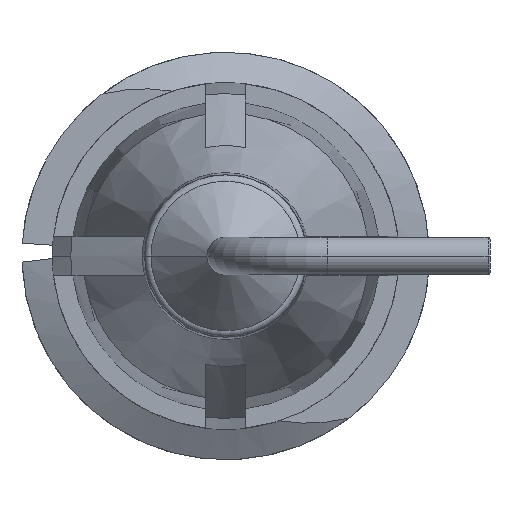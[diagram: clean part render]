
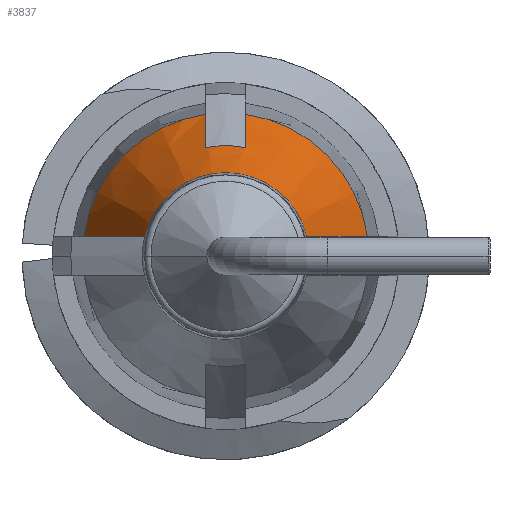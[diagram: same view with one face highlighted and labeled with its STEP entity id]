
A CAD part, front view. The second image highlights one B-rep face of the part: STEP entity #3837.
In plain terms, the highlighted conical face has half-angle 20 degrees and reference radius 2.745 mm.
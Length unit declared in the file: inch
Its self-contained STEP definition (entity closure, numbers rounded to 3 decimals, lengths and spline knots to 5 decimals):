
#43 = AXIS2_PLACEMENT_3D ( 'NONE', #3403, #1882, #2299 ) ;
#114 = CARTESIAN_POINT ( 'NONE',  ( -0.015, -0.406, 0.10703 ) ) ;
#149 = EDGE_CURVE ( 'NONE', #2783, #4253, #3073, .T. ) ;
#156 = VERTEX_POINT ( 'NONE', #3314 ) ;
#180 = ORIENTED_EDGE ( 'NONE', *, *, #1243, .T. ) ;
#208 = EDGE_CURVE ( 'NONE', #1993, #156, #2098, .T. ) ;
#266 = CIRCLE ( 'NONE', #3534, 0.063 ) ;
#291 = CIRCLE ( 'NONE', #2949, 0.08335 ) ;
#336 = ORIENTED_EDGE ( 'NONE', *, *, #1403, .F. ) ;
#341 = CARTESIAN_POINT ( 'NONE',  ( 0., -0.47395, 0. ) ) ;
#511 = CIRCLE ( 'NONE', #3166, 0.10808 ) ;
#533 = CARTESIAN_POINT ( 'NONE',  ( 0.06119, -0.52985, 0.015 ) ) ;
#534 = EDGE_CURVE ( 'NONE', #1964, #2231, #3933, .T. ) ;
#544 = CARTESIAN_POINT ( 'NONE',  ( -0.06119, -0.52985, 0.015 ) ) ;
#555 = CARTESIAN_POINT ( 'NONE',  ( 0.015, -0.42866, 0.0987 ) ) ;
#599 = CARTESIAN_POINT ( 'NONE',  ( -0.015, -0.47395, 0.08198 ) ) ;
#659 = CARTESIAN_POINT ( 'NONE',  ( 0.015, -0.47395, 0.08198 ) ) ;
#903 = EDGE_CURVE ( 'NONE', #2231, #2783, #511, .T. ) ;
#925 = CARTESIAN_POINT ( 'NONE',  ( 0., -0.406, 0. ) ) ;
#933 = CARTESIAN_POINT ( 'NONE',  ( -0.015, -0.406, 0.10703 ) ) ;
#1019 = ORIENTED_EDGE ( 'NONE', *, *, #903, .F. ) ;
#1033 = CARTESIAN_POINT ( 'NONE',  ( 0.015, -0.406, 0.10703 ) ) ;
#1243 = EDGE_CURVE ( 'NONE', #2712, #156, #2851, .T. ) ;
#1261 = CARTESIAN_POINT ( 'NONE',  ( 0.07664, -0.48863, 0.015 ) ) ;
#1379 = DIRECTION ( 'NONE',  ( 0., 1., 0. ) ) ;
#1403 = EDGE_CURVE ( 'NONE', #4253, #3341, #291, .T. ) ;
#1524 = CARTESIAN_POINT ( 'NONE',  ( -0.10703, -0.406, 0.015 ) ) ;
#1621 = DIRECTION ( 'NONE',  ( -1., 0., 0. ) ) ;
#1684 = ORIENTED_EDGE ( 'NONE', *, *, #534, .F. ) ;
#1838 = CARTESIAN_POINT ( 'NONE',  ( 0., -0.52985, 0. ) ) ;
#1882 = DIRECTION ( 'NONE',  ( 0., 1., 0. ) ) ;
#1964 = VERTEX_POINT ( 'NONE', #544 ) ;
#1966 = CARTESIAN_POINT ( 'NONE',  ( -0.09185, -0.44732, 0.015 ) ) ;
#1993 = VERTEX_POINT ( 'NONE', #1033 ) ;
#2025 = CARTESIAN_POINT ( 'NONE',  ( 0.015, -0.406, 0.10703 ) ) ;
#2098 = CIRCLE ( 'NONE', #43, 0.10808 ) ;
#2231 = VERTEX_POINT ( 'NONE', #1524 ) ;
#2281 = CARTESIAN_POINT ( 'NONE',  ( -0.015, -0.47395, 0.08198 ) ) ;
#2299 = DIRECTION ( 'NONE',  ( -1., 0., 0. ) ) ;
#2377 = CARTESIAN_POINT ( 'NONE',  ( 0.10703, -0.406, 0.015 ) ) ;
#2471 = AXIS2_PLACEMENT_3D ( 'NONE', #925, #2750, #1621 ) ;
#2712 = VERTEX_POINT ( 'NONE', #4087 ) ;
#2750 = DIRECTION ( 'NONE',  ( 0., 1., 0. ) ) ;
#2783 = VERTEX_POINT ( 'NONE', #933 ) ;
#2851 = B_SPLINE_CURVE_WITH_KNOTS ( 'NONE', 3,
 ( #533, #1261, #4199, #2377 ),
 .UNSPECIFIED., .F., .F.,
 ( 4, 4 ),
 ( 0.00282, 0.00617 ),
 .UNSPECIFIED. ) ;
#2949 = AXIS2_PLACEMENT_3D ( 'NONE', #341, #3993, #4466 ) ;
#3073 = B_SPLINE_CURVE_WITH_KNOTS ( 'NONE', 3,
 ( #114, #3657, #4026, #2281 ),
 .UNSPECIFIED., .F., .F.,
 ( 4, 4 ),
 ( 0.00343, 0.00527 ),
 .UNSPECIFIED. ) ;
#3092 = CARTESIAN_POINT ( 'NONE',  ( 0.015, -0.45131, 0.09036 ) ) ;
#3102 = CARTESIAN_POINT ( 'NONE',  ( -0.07664, -0.48863, 0.015 ) ) ;
#3166 = AXIS2_PLACEMENT_3D ( 'NONE', #3286, #4012, #3553 ) ;
#3286 = CARTESIAN_POINT ( 'NONE',  ( 0., -0.406, 0. ) ) ;
#3314 = CARTESIAN_POINT ( 'NONE',  ( 0.10703, -0.406, 0.015 ) ) ;
#3337 = B_SPLINE_CURVE_WITH_KNOTS ( 'NONE', 3,
 ( #659, #3092, #555, #2025 ),
 .UNSPECIFIED., .F., .F.,
 ( 4, 4 ),
 ( 0.00247, 0.00431 ),
 .UNSPECIFIED. ) ;
#3341 = VERTEX_POINT ( 'NONE', #4194 ) ;
#3403 = CARTESIAN_POINT ( 'NONE',  ( 0., -0.406, 0. ) ) ;
#3458 = CONICAL_SURFACE ( 'NONE', #2471, 0.10808, 0.349 ) ;
#3534 = AXIS2_PLACEMENT_3D ( 'NONE', #1838, #1379, #3924 ) ;
#3553 = DIRECTION ( 'NONE',  ( -1., 0., 0. ) ) ;
#3657 = CARTESIAN_POINT ( 'NONE',  ( -0.015, -0.42866, 0.0987 ) ) ;
#3748 = ORIENTED_EDGE ( 'NONE', *, *, #149, .F. ) ;
#3790 = FACE_OUTER_BOUND ( 'NONE', #3873, .T. ) ;
#3824 = ORIENTED_EDGE ( 'NONE', *, *, #208, .F. ) ;
#3837 = ADVANCED_FACE ( 'NONE', ( #3790 ), #3458, .T. ) ;
#3843 = CARTESIAN_POINT ( 'NONE',  ( -0.10703, -0.406, 0.015 ) ) ;
#3873 = EDGE_LOOP ( 'NONE', ( #1684, #3905, #180, #3824, #4321, #336, #3748, #1019 ) ) ;
#3898 = EDGE_CURVE ( 'NONE', #3341, #1993, #3337, .T. ) ;
#3905 = ORIENTED_EDGE ( 'NONE', *, *, #4006, .T. ) ;
#3924 = DIRECTION ( 'NONE',  ( -1., 0., 0. ) ) ;
#3933 = B_SPLINE_CURVE_WITH_KNOTS ( 'NONE', 3,
 ( #4481, #3102, #1966, #3843 ),
 .UNSPECIFIED., .F., .F.,
 ( 4, 4 ),
 ( 0.00282, 0.00617 ),
 .UNSPECIFIED. ) ;
#3993 = DIRECTION ( 'NONE',  ( 0., 1., 0. ) ) ;
#4006 = EDGE_CURVE ( 'NONE', #1964, #2712, #266, .T. ) ;
#4012 = DIRECTION ( 'NONE',  ( 0., 1., 0. ) ) ;
#4026 = CARTESIAN_POINT ( 'NONE',  ( -0.015, -0.45131, 0.09036 ) ) ;
#4087 = CARTESIAN_POINT ( 'NONE',  ( 0.06119, -0.52985, 0.015 ) ) ;
#4194 = CARTESIAN_POINT ( 'NONE',  ( 0.015, -0.47395, 0.08198 ) ) ;
#4199 = CARTESIAN_POINT ( 'NONE',  ( 0.09185, -0.44732, 0.015 ) ) ;
#4253 = VERTEX_POINT ( 'NONE', #599 ) ;
#4321 = ORIENTED_EDGE ( 'NONE', *, *, #3898, .F. ) ;
#4466 = DIRECTION ( 'NONE',  ( 1., 0., 0. ) ) ;
#4481 = CARTESIAN_POINT ( 'NONE',  ( -0.06119, -0.52985, 0.015 ) ) ;
